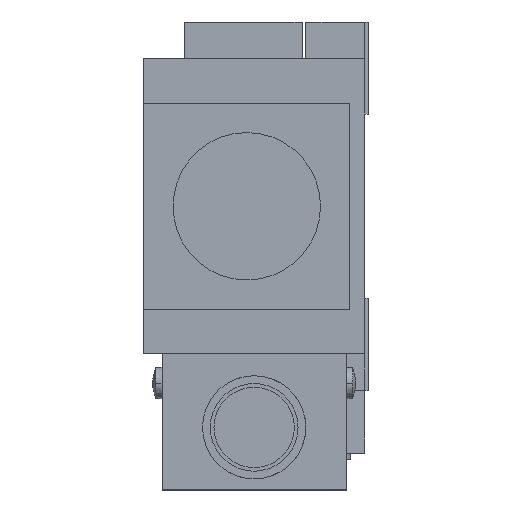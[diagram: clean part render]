
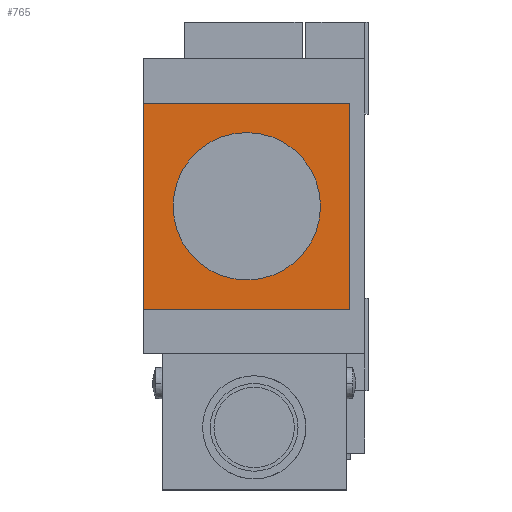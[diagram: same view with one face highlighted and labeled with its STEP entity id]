
A CAD part, left-side view. The second image highlights one B-rep face of the part: STEP entity #765.
In plain terms, the highlighted planar face has unit normal (-1, 0, 0).
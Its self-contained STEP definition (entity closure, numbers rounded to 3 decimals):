
#36 = VERTEX_POINT ( 'NONE', #1579 ) ;
#102 = VERTEX_POINT ( 'NONE', #1729 ) ;
#103 = EDGE_CURVE ( 'NONE', #102, #36, #1742, .T. ) ;
#724 = VERTEX_POINT ( 'NONE', #3658 ) ;
#726 = EDGE_LOOP ( 'NONE', ( #732, #744 ) ) ;
#732 = ORIENTED_EDGE ( 'NONE', *, *, #103, .T. ) ;
#740 = VERTEX_POINT ( 'NONE', #3696 ) ;
#744 = ORIENTED_EDGE ( 'NONE', *, *, #9843, .T. ) ;
#765 = ADVANCED_FACE ( 'NONE', ( #3638, #3682 ), #3695, .F. ) ;
#792 = EDGE_LOOP ( 'NONE', ( #867, #832, #853, #830 ) ) ;
#830 = ORIENTED_EDGE ( 'NONE', *, *, #850, .T. ) ;
#832 = ORIENTED_EDGE ( 'NONE', *, *, #858, .T. ) ;
#842 = VERTEX_POINT ( 'NONE', #3726 ) ;
#848 = EDGE_CURVE ( 'NONE', #724, #852, #3724, .T. ) ;
#850 = EDGE_CURVE ( 'NONE', #852, #740, #3712, .T. ) ;
#852 = VERTEX_POINT ( 'NONE', #3717 ) ;
#853 = ORIENTED_EDGE ( 'NONE', *, *, #848, .T. ) ;
#858 = EDGE_CURVE ( 'NONE', #842, #724, #3704, .T. ) ;
#867 = ORIENTED_EDGE ( 'NONE', *, *, #868, .T. ) ;
#868 = EDGE_CURVE ( 'NONE', #740, #842, #3759, .T. ) ;
#1579 = CARTESIAN_POINT ( 'NONE',  ( -89.5, 16.5, -22.5 ) ) ;
#1718 = AXIS2_PLACEMENT_3D ( 'NONE', #1740, #1779, #1778 ) ;
#1729 = CARTESIAN_POINT ( 'NONE',  ( -89.5, 16.5, -27.5 ) ) ;
#1740 = CARTESIAN_POINT ( 'NONE',  ( -89.5, 16.5, -25. ) ) ;
#1742 = CIRCLE ( 'NONE', #1718, 2.5 ) ;
#1778 = DIRECTION ( 'NONE',  ( 0., 0., -1. ) ) ;
#1779 = DIRECTION ( 'NONE',  ( 1., 0., 0. ) ) ;
#3638 = FACE_BOUND ( 'NONE', #726, .T. ) ;
#3658 = CARTESIAN_POINT ( 'NONE',  ( -89.5, 30.5, -39. ) ) ;
#3677 = DIRECTION ( 'NONE',  ( 0., 0., -1. ) ) ;
#3681 = AXIS2_PLACEMENT_3D ( 'NONE', #3691, #3683, #3677 ) ;
#3682 = FACE_OUTER_BOUND ( 'NONE', #792, .T. ) ;
#3683 = DIRECTION ( 'NONE',  ( 1., 0., 0. ) ) ;
#3691 = CARTESIAN_POINT ( 'NONE',  ( -89.5, 29., -25. ) ) ;
#3695 = PLANE ( 'NONE',  #3681 ) ;
#3696 = CARTESIAN_POINT ( 'NONE',  ( -89.5, 2.5, -11. ) ) ;
#3699 = DIRECTION ( 'NONE',  ( 0., 0., -1. ) ) ;
#3700 = VECTOR ( 'NONE', #3699, 1000. ) ;
#3703 = CARTESIAN_POINT ( 'NONE',  ( -89.5, 30.5, -11. ) ) ;
#3704 = LINE ( 'NONE', #3703, #3700 ) ;
#3709 = DIRECTION ( 'NONE',  ( 0., 0., 1. ) ) ;
#3710 = VECTOR ( 'NONE', #3709, 1000. ) ;
#3711 = CARTESIAN_POINT ( 'NONE',  ( -89.5, 2.5, -11. ) ) ;
#3712 = LINE ( 'NONE', #3711, #3710 ) ;
#3714 = DIRECTION ( 'NONE',  ( 0., -1., 0. ) ) ;
#3715 = VECTOR ( 'NONE', #3714, 1000. ) ;
#3717 = CARTESIAN_POINT ( 'NONE',  ( -89.5, 2.5, -39. ) ) ;
#3720 = CARTESIAN_POINT ( 'NONE',  ( -89.5, 30.5, -39. ) ) ;
#3724 = LINE ( 'NONE', #3720, #3715 ) ;
#3726 = CARTESIAN_POINT ( 'NONE',  ( -89.5, 30.5, -11. ) ) ;
#3756 = DIRECTION ( 'NONE',  ( 0., 1., 0. ) ) ;
#3757 = VECTOR ( 'NONE', #3756, 1000. ) ;
#3758 = CARTESIAN_POINT ( 'NONE',  ( -89.5, 30.5, -11. ) ) ;
#3759 = LINE ( 'NONE', #3758, #3757 ) ;
#7520 = CARTESIAN_POINT ( 'NONE',  ( -89.5, 16.5, -25. ) ) ;
#7534 = CIRCLE ( 'NONE', #7538, 2.5 ) ;
#7538 = AXIS2_PLACEMENT_3D ( 'NONE', #7520, #7585, #7584 ) ;
#7584 = DIRECTION ( 'NONE',  ( 0., 0., -1. ) ) ;
#7585 = DIRECTION ( 'NONE',  ( 1., 0., 0. ) ) ;
#9843 = EDGE_CURVE ( 'NONE', #36, #102, #7534, .T. ) ;
